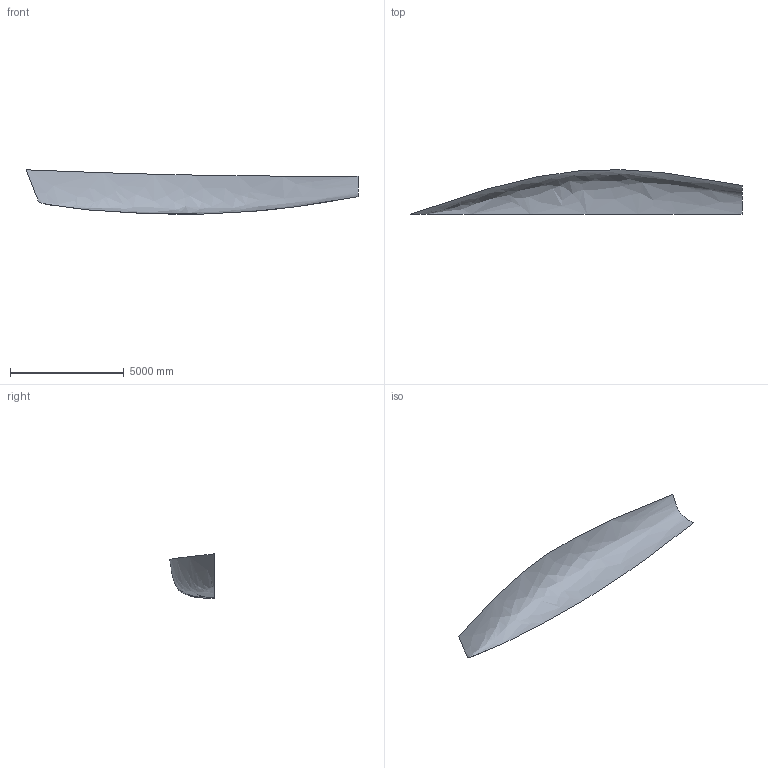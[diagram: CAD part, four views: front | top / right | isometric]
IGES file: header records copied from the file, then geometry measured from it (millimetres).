
Start section: DATA transfer to IGES file format           James R Teeters           17 Goodwin Street           Newport, RI 02840
Global section: file name: UssaM10.igs; author: Jim Teeters; organization: Newport RI; date: 951128.120000; units: metre
Bounding box: 14612.59 x 1959.9 x 1950.86 mm (x, y, z)
Surface area: 36246934.3 mm2 (no closed solid volume)
Topology: 0 solids, 0 shells, 1 faces, 4 edges, 4 vertices
Faces by surface type: bspline 1
